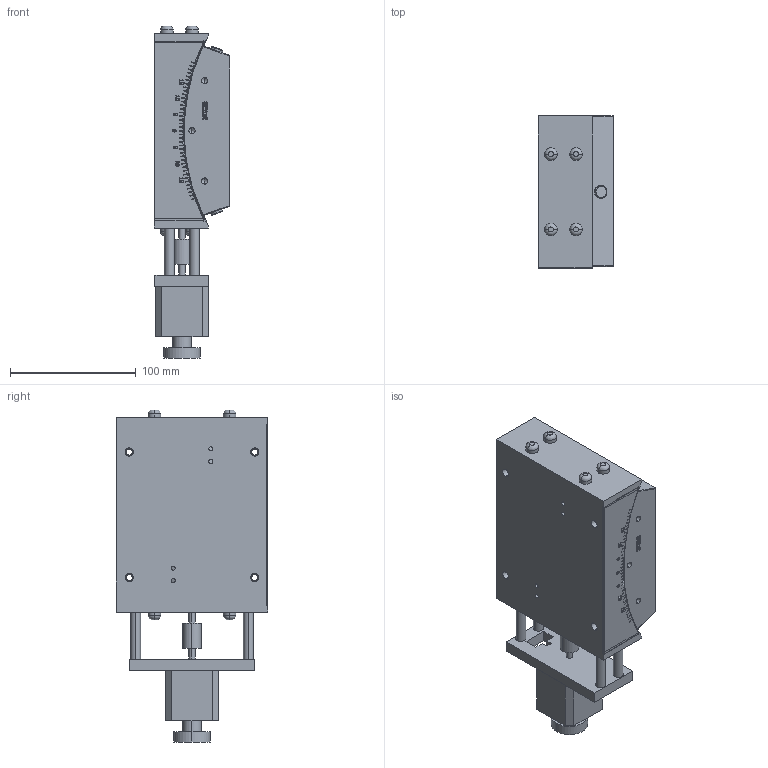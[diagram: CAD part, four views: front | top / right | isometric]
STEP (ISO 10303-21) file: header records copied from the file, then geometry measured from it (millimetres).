
FILE_DESCRIPTION (( 'STEP AP214' ), '1' );
FILE_NAME ('PT-GD312.STEP', '2022-11-06T01:54:06', ( '' ), ( '' ), 'SwSTEP 2.0', 'SolidWorks 2017', '' );
FILE_SCHEMA (( 'AUTOMOTIVE_DESIGN' ));
Length unit declared in the file: millimetre
Products named in the file (3): PT-SD312-奻釱; PT-SD312-狟釱; PT-GD312
Assembly tree (2 placements, depth 2):
  PT-GD312
    PT-SD312-狟釱
    PT-SD312-奻釱
Bounding box: 60 x 121 x 264.5 mm (x, y, z)
Volume: 1141755 mm3; surface area: 160328.7 mm2
Topology: 3 solids, 3 shells, 868 faces, 2332 edges, 1509 vertices
Faces by surface type: plane 415, bspline 191, cylinder 170, cone 76, torus 16
Entity records: 33986 total; most frequent: CARTESIAN_POINT 13297, ORIENTED_EDGE 4626, DIRECTION 3543, EDGE_CURVE 2313, VERTEX_POINT 1509, LINE 1317, VECTOR 1317, AXIS2_PLACEMENT_3D 1113
